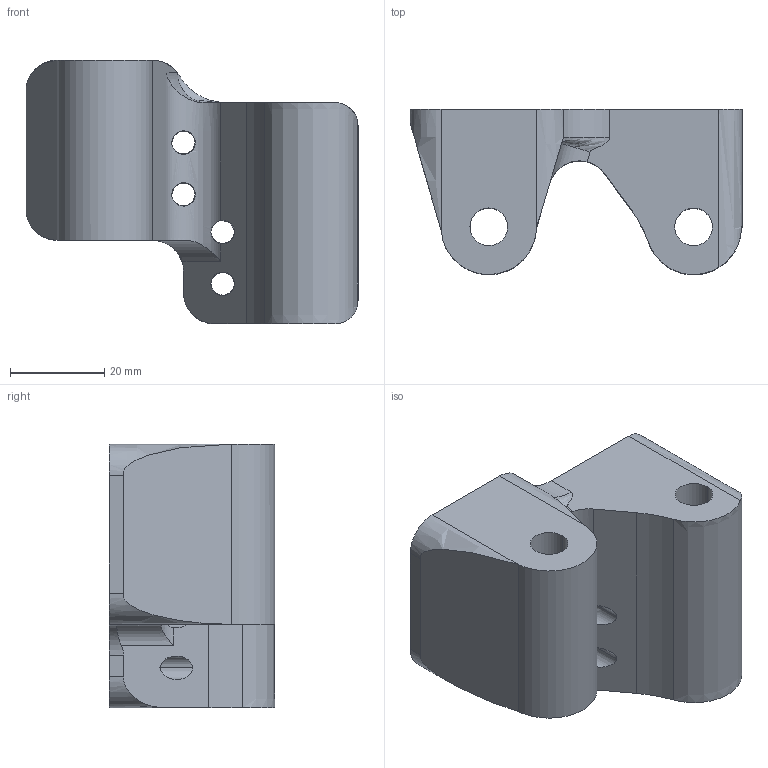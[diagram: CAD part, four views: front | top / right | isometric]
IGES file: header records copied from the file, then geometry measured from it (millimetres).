
Start section:  PTC IGES file: sanderbase.igs
Global section: file name: sanderbase.igs; native system: Creo Parametric by Parametric Technology Corporation; preprocessor: 2012130; author: GOC; organization: Unknown; date: 20141104.224106; units: millimetre
Bounding box: 70.52 x 35.13 x 56 mm (x, y, z)
Volume: 71053.9 mm3; surface area: 15678.9 mm2
Topology: 1 solids, 1 shells, 40 faces, 115 edges, 76 vertices
Faces by surface type: revolution 26, bspline 14
